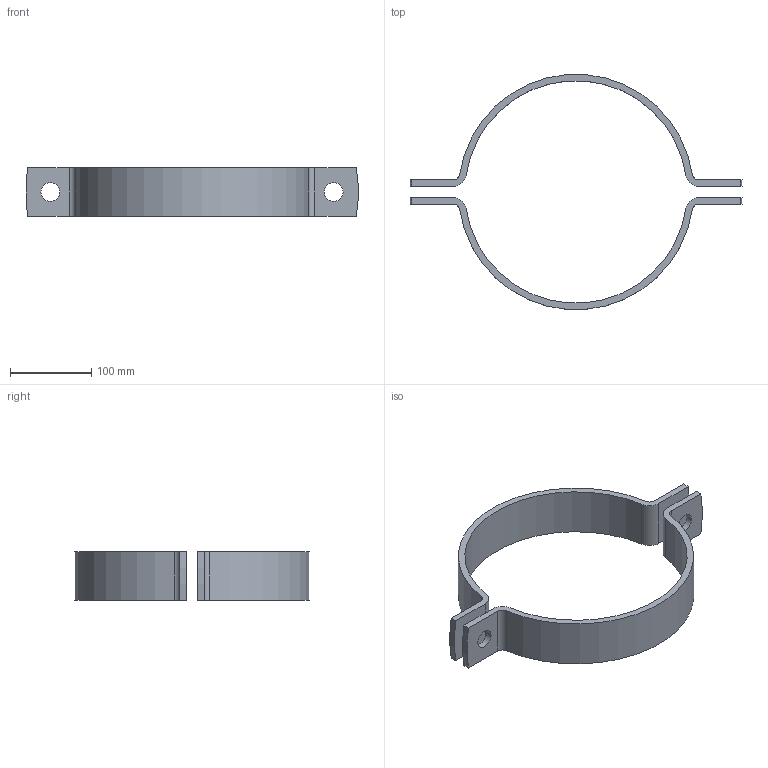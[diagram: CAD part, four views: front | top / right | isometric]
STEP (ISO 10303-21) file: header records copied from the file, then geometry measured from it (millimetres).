
FILE_DESCRIPTION (( 'STEP AP203' ), '1' );
FILE_NAME ('NW250-273 (DIN 3567).STEP', '2023-12-08T11:35:44', ( '' ), ( '' ), 'SwSTEP 2.0', 'SolidWorks 2023', '' );
FILE_SCHEMA (( 'CONFIG_CONTROL_DESIGN' ));
Length unit declared in the file: millimetre
Products named in the file (1): NW250-273 (DIN 3567)
Bounding box: 407.51 x 287.99 x 60 mm (x, y, z)
Volume: 503117.7 mm3; surface area: 147137.6 mm2
Topology: 2 solids, 2 shells, 36 faces, 96 edges, 64 vertices
Faces by surface type: cylinder 24, plane 12
Entity records: 1239 total; most frequent: DIRECTION 218, CARTESIAN_POINT 197, ORIENTED_EDGE 192, EDGE_CURVE 96, AXIS2_PLACEMENT_3D 85, VERTEX_POINT 64, CIRCLE 48, VECTOR 48
